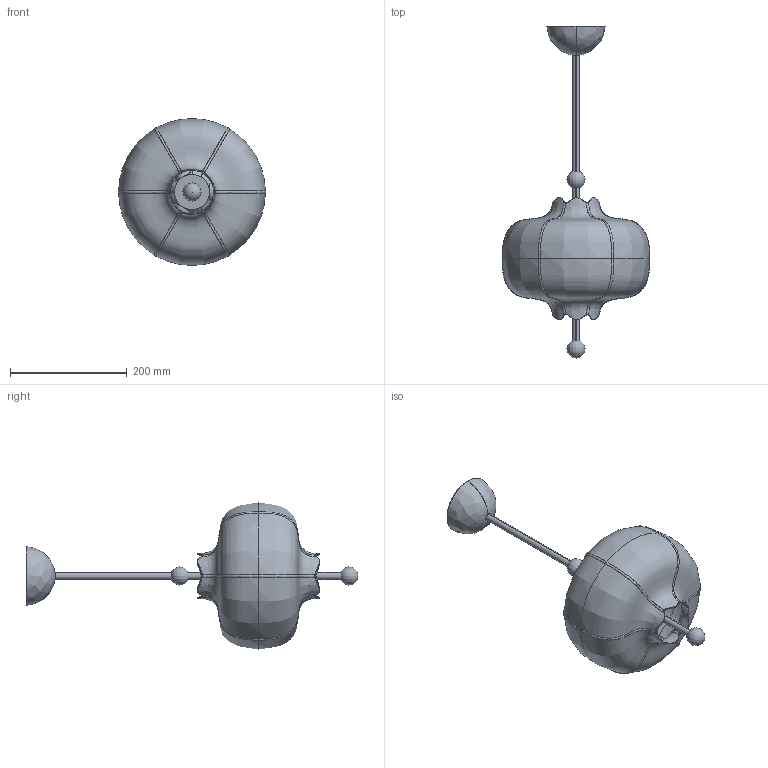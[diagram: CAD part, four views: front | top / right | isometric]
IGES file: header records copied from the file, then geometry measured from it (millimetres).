
Start section: SolidWorks IGES file using analytic representation for surfaces
Global section: file name: F:\燠隴矨\3D\2024-7\Lantern Fabric Pendant Light-D25CM.IGS,15; native system: HSolidWorks 2022; preprocessor: SolidWorks 2022; author: MyPC; date: 240719.174700; units: millimetre
Bounding box: 253.55 x 568.95 x 251.6 mm (x, y, z)
Surface area: 442467.6 mm2 (no closed solid volume)
Topology: 0 solids, 0 shells, 133 faces, 6042 edges, 6034 vertices
Faces by surface type: bspline 103, revolution 30
